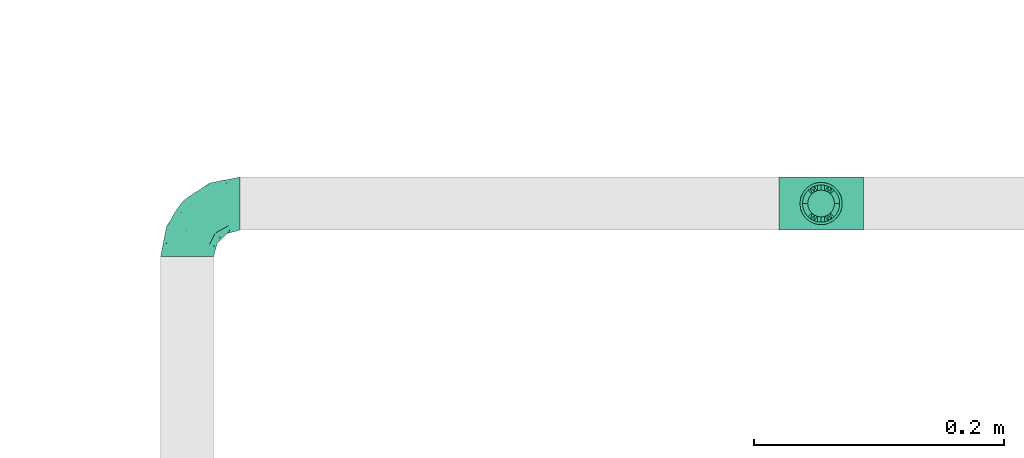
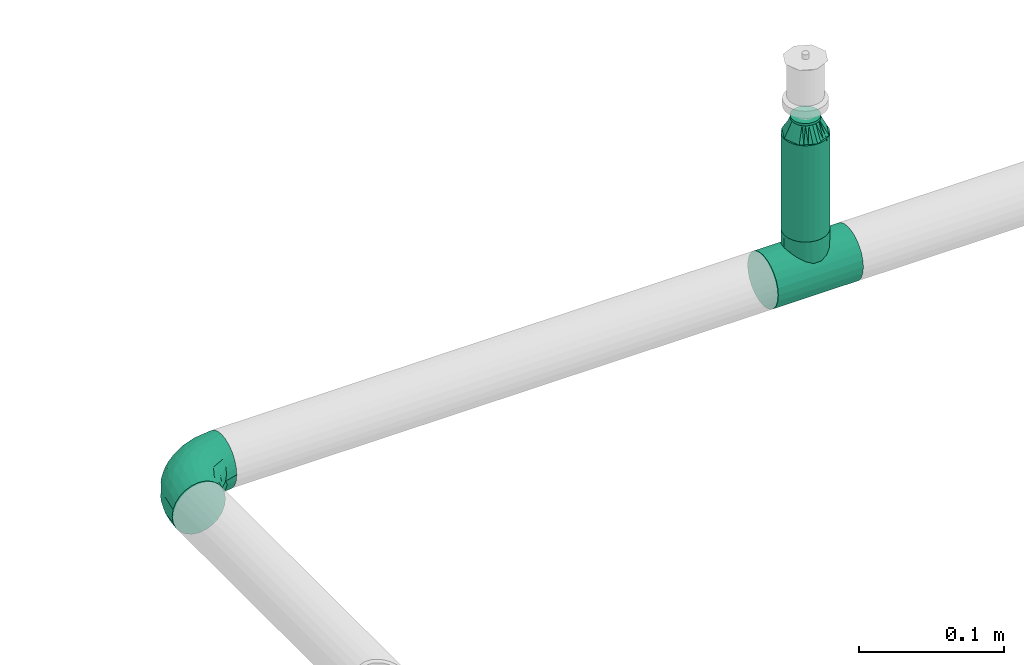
# One storey, part 48 of 94: 3 flow fittings, 1 flow segment.
"""IFC2X3 building model written with IfcOpenShell, lengths in millimetres."""

import ifcopenshell
import ifcopenshell.guid

model = None  # the IFC model being written
_history = None  # IfcOwnerHistory: only IFC2X3 demands one
_inside = {}  # id of a spatial element -> (the spatial element, [elements in it])
_under = {}  # id of a project, library or spatial element -> (it, [spatial elements below it])
_declared = {}  # id of a project -> (the project, [libraries it declares])
_typed = {}  # id of a type object -> (the type object, [elements of that type])
_made_of = {}  # id of a material, layer set ... -> (it, [elements and type objects made of it])


def new_model(schema):
    """Start an empty IFC model of exactly this schema.

    Asked for "IFC4X3", IfcOpenShell would pick the latest addendum, in which some entities
    have other attributes; the version numbers below select the first issue.
    IFC2X3 requires an IfcOwnerHistory on every rooted entity: one is made here for all.
    """
    global model, _history
    if schema == "IFC4X3":
        model = ifcopenshell.file(schema_version=(4, 3, 0, 0))
    else:
        model = ifcopenshell.file(schema=schema)
    _inside.clear()
    _under.clear()
    _declared.clear()
    _typed.clear()
    _made_of.clear()
    _history = None
    if model.schema == "IFC2X3":
        org = make("IfcOrganization", Name="unknown")
        user = make(
            "IfcPersonAndOrganization",
            ThePerson=make("IfcPerson", FamilyName="unknown"),
            TheOrganization=org,
        )
        app = make(
            "IfcApplication",
            ApplicationDeveloper=org,
            Version="unknown",
            ApplicationFullName="unknown",
            ApplicationIdentifier="unknown",
        )
        _history = make(
            "IfcOwnerHistory",
            OwningUser=user,
            OwningApplication=app,
            ChangeAction="ADDED",
            CreationDate=0,
        )
    return model


def make(cls, **values):
    """One entity of the class cls with the attributes given. An attribute that is None is left unset."""
    return model.create_entity(
        cls, **{name: value for name, value in values.items() if value is not None}
    )


def entity(cls, *values):
    """Any entity or typed value of the class cls, its attributes in the order of the schema. None: left unset."""
    e = model.create_entity(cls)
    for i, value in enumerate(values):
        if value is not None:
            e[i] = value
    return e


def rooted(cls, **values):
    """An entity with a GlobalId (a new one), such as an element, a storey or a relation."""
    return make(cls, GlobalId=ifcopenshell.guid.new(), OwnerHistory=_history, **values)


def si_unit(unit_type, name, prefix=None):
    """IfcSIUnit, for example si_unit("LENGTHUNIT", "METRE", prefix="MILLI")."""
    return make("IfcSIUnit", UnitType=unit_type, Prefix=prefix, Name=name)


def converted_unit(unit_type, name, factor, base, dimensions=None, offset=None):
    """IfcConversionBasedUnit, such as the inch: factor (a typed value) times the base unit."""
    return make(
        "IfcConversionBasedUnit"
        if offset is None
        else "IfcConversionBasedUnitWithOffset",
        ConversionOffset=offset,
        Dimensions=None
        if dimensions is None
        else entity("IfcDimensionalExponents", *dimensions),
        UnitType=unit_type,
        Name=name,
        ConversionFactor=make(
            "IfcMeasureWithUnit", ValueComponent=factor, UnitComponent=base
        ),
    )


def derived_unit(unit_type, elements):
    """IfcDerivedUnit: a product of units, each with its exponent."""
    return make(
        "IfcDerivedUnit",
        Elements=[
            make("IfcDerivedUnitElement", Unit=unit, Exponent=power)
            for unit, power in elements
        ],
        UnitType=unit_type,
    )


def assignment(units):
    """IfcUnitAssignment: the units of a project."""
    return None if units is None else make("IfcUnitAssignment", Units=units)


def point(xyz):
    """IfcCartesianPoint."""
    return None if xyz is None else make("IfcCartesianPoint", Coordinates=xyz)


def direction(xyz):
    """IfcDirection."""
    return None if xyz is None else make("IfcDirection", DirectionRatios=xyz)


def frame(location, z_axis=None, x_axis=None):
    """IfcAxis2Placement3D, a coordinate frame: its origin and axes. An axis left out is left unset."""
    return make(
        "IfcAxis2Placement3D",
        Location=point(location),
        Axis=direction(z_axis),
        RefDirection=direction(x_axis),
    )


def frame_2d(location, x_axis=None):
    """IfcAxis2Placement2D, a coordinate frame in the plane: its origin and x axis."""
    return make(
        "IfcAxis2Placement2D", Location=point(location), RefDirection=direction(x_axis)
    )


def origin_with_axes():
    """The frame at (0, 0, 0) with the z axis (0, 0, 1) and the x axis (1, 0, 0) written out."""
    return frame((0.0, 0.0, 0.0), z_axis=(0.0, 0.0, 1.0), x_axis=(1.0, 0.0, 0.0))


def origin_2d_with_axis():
    """The frame at (0, 0) in the plane with the x axis (1, 0) written out."""
    return frame_2d((0.0, 0.0), x_axis=(1.0, 0.0))


def place(relative_to, where):
    """IfcLocalPlacement: puts the frame where relative to a parent placement (None: the world)."""
    return make(
        "IfcLocalPlacement", PlacementRelTo=relative_to, RelativePlacement=where
    )


def context(
    kind, dimensions, precision=None, world=None, true_north=None, identifier=None
):
    """IfcGeometricRepresentationContext, for example the 3D "Model" context."""
    return make(
        "IfcGeometricRepresentationContext",
        ContextIdentifier=identifier,
        ContextType=kind,
        CoordinateSpaceDimension=dimensions,
        Precision=precision,
        WorldCoordinateSystem=world,
        TrueNorth=true_north,
    )


def subcontext(parent, identifier, kind, view, scale=None):
    """IfcGeometricRepresentationSubContext, for example "Body" below "Model"."""
    return make(
        "IfcGeometricRepresentationSubContext",
        ContextIdentifier=identifier,
        ContextType=kind,
        ParentContext=parent,
        TargetScale=scale,
        TargetView=view,
    )


def project(units=None, contexts=None):
    """IfcProject with its units and contexts."""
    return rooted(
        "IfcProject",
        Name="project",
        RepresentationContexts=contexts,
        UnitsInContext=assignment(units),
    )


def spatial(cls, under=None, at=None, **own):
    """A site, building, storey or space (cls), placed at a placement, below another one or the project."""
    s = rooted(cls, ObjectPlacement=at, **own)
    if under is not None:
        _under.setdefault(under.id(), (under, []))[1].append(s)
    return s


def profile(cls, at=None, kind="AREA", **sizes):
    """A parametric profile (cls). Its sizes go by their IFC names, for example OverallWidth=200.0."""
    return make(cls, ProfileType=kind, Position=at, **sizes)


def hollow_circle(**sizes):
    """IfcCircleHollowProfileDef."""
    return profile("IfcCircleHollowProfileDef", **sizes)


def extrude(swept, where, along, depth):
    """IfcExtrudedAreaSolid: the profile swept, set in the frame where, extruded along a direction by depth."""
    return make(
        "IfcExtrudedAreaSolid",
        SweptArea=swept,
        Position=where,
        ExtrudedDirection=direction(along),
        Depth=depth,
    )


def faces_of(points, faces, orient=None, outer=None):
    """IfcFace entities. A face is a list of loops; a loop is a list of indices into points, from 0.

    orient and outer hold one flag for each loop. By default every Orientation is true, the
    first loop of a face is its IfcFaceOuterBound and the others are IfcFaceBound.
    """
    made = []
    for i, loops in enumerate(faces):
        bounds = []
        for j, loop in enumerate(loops):
            is_outer = j == 0 if outer is None else outer[i][j]
            bounds.append(
                make(
                    "IfcFaceOuterBound" if is_outer else "IfcFaceBound",
                    Bound=make("IfcPolyLoop", Polygon=[points[k] for k in loop]),
                    Orientation=True if orient is None else orient[i][j],
                )
            )
        made.append(make("IfcFace", Bounds=bounds))
    return made


def open_shell(faces, orient=None, outer=None):
    """The faces of one IfcOpenShell. surface_model builds it on its shared points."""
    return ("IfcOpenShell", faces, orient, outer)


def surface_model(cls, points, shells):
    """IfcFaceBasedSurfaceModel or IfcShellBasedSurfaceModel (cls): surfaces that need not close."""
    shared = [point(p) for p in points]
    made = [make(c, CfsFaces=faces_of(shared, fs, o, b)) for c, fs, o, b in shells]
    if cls == "IfcFaceBasedSurfaceModel":
        return make(cls, FbsmFaces=made)
    return make(cls, SbsmBoundary=made)


def shape(context_of_items, identifier, shape_type, items):
    """IfcShapeRepresentation: the items that make up one representation, for example the "Body"."""
    return make(
        "IfcShapeRepresentation",
        ContextOfItems=context_of_items,
        RepresentationIdentifier=identifier,
        RepresentationType=shape_type,
        Items=items,
    )


def source(mapping_origin, context_of_items, identifier, shape_type, items):
    """IfcRepresentationMap: a shape defined once, which mapped items show again and again."""
    return make(
        "IfcRepresentationMap",
        MappingOrigin=mapping_origin,
        MappedRepresentation=shape(context_of_items, identifier, shape_type, items),
    )


def transform(
    local_origin,
    x_axis=None,
    y_axis=None,
    z_axis=None,
    scale=None,
    scale2=None,
    scale3=None,
    uniform=True,
):
    """IfcCartesianTransformationOperator3D, or its non-uniform kind. x_axis, y_axis, z_axis: its Axis1, 2, 3."""
    if uniform:
        return make(
            "IfcCartesianTransformationOperator3D",
            Axis1=direction(x_axis),
            Axis2=direction(y_axis),
            LocalOrigin=point(local_origin),
            Scale=scale,
            Axis3=direction(z_axis),
        )
    return make(
        "IfcCartesianTransformationOperator3DnonUniform",
        Axis1=direction(x_axis),
        Axis2=direction(y_axis),
        LocalOrigin=point(local_origin),
        Scale=scale,
        Axis3=direction(z_axis),
        Scale2=scale2,
        Scale3=scale3,
    )


def mapped(mapping_source, mapping_target):
    """IfcMappedItem: shows the shape of a source again, moved by a transform."""
    return make(
        "IfcMappedItem", MappingSource=mapping_source, MappingTarget=mapping_target
    )


def made_of(thing, what):
    """Note that an element or type object is made of a material, layer set ...; save() writes the relation."""
    if what is not None:
        _made_of.setdefault(what.id(), (what, []))[1].append(thing)
    return thing


def type_object(cls, material=None, **own):
    """A type object (cls), such as IfcWallType, which elements share."""
    return made_of(rooted(cls, **own), material)


def element(
    cls,
    number,
    at=None,
    inside=None,
    cuts=None,
    type_object=None,
    material=None,
    context=None,
    identifier="Body",
    shape_type=None,
    held_by="IfcProductDefinitionShape",
    body=None,
    shapes=None,
    **own,
):
    """One element of the class cls, such as IfcWall. Its Tag is "e" and its number.

    at: its placement. inside: the storey or other place that contains it. cuts: it is an
    opening in that element (IfcRelVoidsElement). A single representation is given by context,
    identifier, shape_type and body (its items); several are given by shapes. held_by: the class
    of the entity that holds the representations. save() writes the other relations.
    """
    e = rooted(cls, Tag="e%d" % number, ObjectPlacement=at, **own)
    if body is not None:
        shapes = [shape(context, identifier, shape_type, body)]
    if shapes is not None:
        e.Representation = make(held_by, Representations=shapes)
    if inside is not None:
        _inside.setdefault(inside.id(), (inside, []))[1].append(e)
    if cuts is not None:
        rooted(
            "IfcRelVoidsElement", RelatingBuildingElement=cuts, RelatedOpeningElement=e
        )
    if type_object is not None:
        _typed.setdefault(type_object.id(), (type_object, []))[1].append(e)
    return made_of(e, material)


def aggregate(whole, parts):
    """IfcRelAggregates: a whole, such as a stair, and the parts it consists of."""
    return rooted("IfcRelAggregates", RelatingObject=whole, RelatedObjects=parts)


def save(model, path):
    """Write the relations noted so far, then the file.

    IfcRelAggregates (storeys below a building ...), IfcRelContainedInSpatialStructure (elements
    in a storey), IfcRelDefinesByType, IfcRelAssociatesMaterial and IfcRelDeclares: one each for
    every whole, place, type object, material and project.
    """
    for whole, parts in _under.values():
        aggregate(whole, parts)
    for where, things in _inside.values():
        rooted(
            "IfcRelContainedInSpatialStructure",
            RelatedElements=things,
            RelatingStructure=where,
        )
    for kind, things in _typed.values():
        rooted("IfcRelDefinesByType", RelatedObjects=things, RelatingType=kind)
    for what, things in _made_of.values():
        rooted("IfcRelAssociatesMaterial", RelatedObjects=things, RelatingMaterial=what)
    for by, libraries in _declared.values():
        rooted("IfcRelDeclares", RelatingContext=by, RelatedDefinitions=libraries)
    model.write(path)


model = new_model("IFC2X3")

# Units and contexts
model_context = context("Model", 3, precision=0.01, world=frame((0.0, 4.29681676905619e-09, 0.0)), true_north=direction((4.01073788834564e-13, 1.0)))
plan_context = context("Plan", 3, precision=0.01, world=frame((0.0, 4.29681676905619e-09, 0.0)), true_north=direction((4.01073788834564e-13, 1.0)))
body_context = subcontext(model_context, "Body", "Model", "MODEL_VIEW")
ifc_project = project(units=[converted_unit("PLANEANGLEUNIT", "DEGREE", entity("IfcPositiveLengthMeasure", 0.0174532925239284), si_unit("PLANEANGLEUNIT", "RADIAN"), dimensions=[0, 0, 0, 0, 0, 0, 0]), si_unit("AREAUNIT", "SQUARE_METRE"), si_unit("LENGTHUNIT", "METRE", prefix="MILLI"), si_unit("MASSUNIT", "GRAM", prefix="KILO"), si_unit("POWERUNIT", "WATT"), si_unit("PRESSUREUNIT", "PASCAL"), si_unit("FORCEUNIT", "NEWTON", prefix="KILO"), si_unit("ELECTRICCURRENTUNIT", "AMPERE"), si_unit("THERMODYNAMICTEMPERATUREUNIT", "DEGREE_CELSIUS"), si_unit("TIMEUNIT", "SECOND"), si_unit("VOLUMEUNIT", "CUBIC_METRE"), derived_unit("LINEARVELOCITYUNIT", [(si_unit("LENGTHUNIT", "METRE"), 1), (si_unit("TIMEUNIT", "SECOND"), -1)]), derived_unit("VOLUMETRICFLOWRATEUNIT", [(si_unit("VOLUMEUNIT", "CUBIC_METRE"), 1), (si_unit("TIMEUNIT", "SECOND"), -1)]), derived_unit("THERMALTRANSMITTANCEUNIT", [(si_unit("POWERUNIT", "WATT"), 1), (si_unit("THERMODYNAMICTEMPERATUREUNIT", "KELVIN"), -1), (si_unit("AREAUNIT", "SQUARE_METRE"), -1)])], contexts=[model_context, plan_context])

# Site, building, storey
site_placement = place(None, frame((0.0, -4.29681676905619e-09, 0.0), z_axis=(0.0, 0.0, 1.0), x_axis=(1.0, 0.0, 0.0)))
site = spatial("IfcSite", under=ifc_project, at=site_placement, CompositionType="ELEMENT")
building_placement = place(site_placement, frame((0.0, 4.29681676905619e-09, 0.0), z_axis=(0.0, 0.0, 1.0), x_axis=(1.0, 0.0, 0.0)))
building = spatial("IfcBuilding", under=site, at=building_placement, Name="mc-building", CompositionType="ELEMENT")
storey_placement = place(building_placement, frame((0.0, 0.0, 200300.0), z_axis=(0.0, 0.0, 1.0), x_axis=(1.0, 0.0, 0.0)))
storey = spatial("IfcBuildingStorey", under=building, at=storey_placement, Name="Nivå C", CompositionType="ELEMENT", Elevation=200300.0)

# Flow fittings
pipe_fitting_type_1 = type_object("IfcPipeFittingType", Name="magi_pipe_fe_elbow_short_001", PredefinedType="BEND")
shared_shape_1 = source(origin_with_axes(), body_context, "Body", "SurfaceModel", [
    surface_model("IfcShellBasedSurfaceModel", [(-42.4, 10.6, -18.35974), (-42.4, 5.48696, -20.47763), (-42.4, 0.0, -21.2), (-42.4, 14.99066, -14.99066), (-42.4, 20.47763, -5.48696), (-42.4, 18.35974, -10.6), (-42.4, -14.99066, 14.99066), (-42.4, -21.2, 0.0), (-42.4, -10.6, -18.35974), (-42.4, -14.99066, -14.99066), (-42.4, -5.48696, -20.47763), (-42.4, -18.35974, -10.6), (-42.4, -20.47763, -5.48696), (-42.4, 10.6, 18.35974), (-42.4, 20.47763, 5.48696), (-42.4, 18.35974, 10.6), (-42.4, 14.99066, 14.99066), (-42.4, 5.48696, 20.47763), (-42.4, 0.0, 21.2), (-42.4, -20.47763, 5.48696), (-42.4, -18.35974, 10.6), (-42.4, -10.6, 18.35974), (-42.4, -5.48696, 20.47763), (-42.4, 21.2, 0.0), (0.0, 42.4, -21.2), (-5.48696, 42.4, -20.47763), (-10.6, 42.4, -18.35974), (-14.99066, 42.4, -14.99066), (-18.35974, 42.4, -10.6), (-20.47763, 42.4, -5.48696), (21.2, 42.4, 0.0), (5.48696, 42.4, -20.47763), (14.99066, 42.4, -14.99066), (10.6, 42.4, -18.35974), (18.35974, 42.4, -10.6), (20.47763, 42.4, -5.48696), (14.99066, 42.4, 14.99066), (-20.47763, 42.4, 5.48696), (-10.6, 42.4, 18.35974), (-14.99066, 42.4, 14.99066), (-18.35974, 42.4, 10.6), (-5.48696, 42.4, 20.47763), (0.0, 42.4, 21.2), (18.35974, 42.4, 10.6), (20.47763, 42.4, 5.48696), (5.48696, 42.4, 20.47763), (10.6, 42.4, 18.35974), (-21.2, 42.4, 0.0), (-31.10239, -16.47009, 11.90111), (-27.83957, -12.231, 15.79732), (-30.23067, -18.77937, 0.0), (-18.74048, -13.50096, 10.69998), (-28.17586, -18.50359, 6.61185), (18.50359, 28.17586, 6.61185), (14.95929, 16.60735, 5.43468), (16.35874, 18.06133, 0.0), (-20.72313, 33.83635, 9.21426), (-17.70981, 33.00599, 13.92769), (-31.16033, -8.01664, 19.07348), (-32.38682, -2.80842, 20.83743), (-29.68688, 3.24967, 21.16387), (-7.74467, -9.46536, 0.0), (-16.60735, -14.95929, 5.43468), (-18.06133, -16.35874, 0.0), (-16.37932, -5.14532, 17.61254), (-21.10659, -0.19025, 20.54817), (-1.82445, -3.58377, 9.55223), (-0.35533, 0.43745, 12.66367), (-7.20655, -5.07682, 13.06146), (-33.14056, 17.6728, 13.91288), (-7.36799, 20.84806, 21.16196), (-15.70315, 15.70315, 20.68489), (-12.62356, 9.26422, 21.0908), (-36.67879, 12.83836, 17.27427), (-7.91358, 36.5686, 19.85759), (-2.90555, 31.71221, 21.14793), (-33.84689, 20.71971, 9.21285), (-33.51649, 22.58113, 4.66115), (-26.3226, 26.3226, 7.92474), (-32.67995, 8.31454, 20.02643), (-5.53379, 14.19921, 20.81623), (-10.53385, 3.88918, 19.79653), (-2.16577, 11.45378, 19.48254), (-3.78693, 3.78693, 17.3328), (12.231, 27.83957, 15.79732), (13.50096, 18.74047, 10.69998), (16.47009, 31.10239, 11.90111), (-22.53806, 14.38475, 19.60876), (-23.29615, 9.08095, 20.82061), (2.80842, 32.38682, 20.83743), (8.01664, 31.16033, 19.07348), (5.14532, 16.37932, 17.61254), (18.77937, 30.23067, 0.0), (-20.80278, 5.19491, 21.19095), (-19.62579, 22.38752, 17.42006), (-29.19336, 14.39093, 17.85259), (-22.31569, 34.20044, 4.54807), (-26.56962, 27.80621, 3.73106), (9.67657, 17.17133, 14.49993), (-24.04026, 31.8, 0.0), (-9.16861, 28.72652, 20.19004), (-12.09761, 21.9456, 20.37969), (-15.36991, 27.40112, 17.818), (-16.88976, 20.52477, 19.2896), (-12.95169, 35.54896, 17.36222), (-17.17133, -9.67657, 14.49993), (-21.98655, 28.10245, 11.99898), (-22.34699, 23.67592, 15.01692), (-27.22822, 22.77969, 11.82161), (0.19025, 21.10658, 20.54817), (4.8276, 7.36347, 13.42842), (-10.06209, -9.46364, 9.95114), (1.25876, -2.7536, 5.73797), (6.43781, 3.77591, 7.40371), (6.57528, 2.20066, 3.17705), (10.91934, 8.84313, 5.00748), (10.64415, 10.99764, 8.89767), (-31.8, 24.04026, 0.0), (-5.71381, -8.43063, 6.15529), (2.57199, -2.57199, 0.0), (9.46536, 7.74467, 0.0), (-17.17133, -9.67657, -14.49993), (-27.83957, -12.231, -15.79732), (-16.37932, -5.14532, -17.61254), (-18.74048, -13.50096, -10.69998), (-33.00599, 17.70981, -13.92769), (-35.54896, 12.95169, -17.36222), (-34.20044, 22.31569, -4.54807), (-28.17586, -18.50359, -6.61185), (-26.3226, 26.3226, -7.92474), (-33.83635, 20.72313, -9.21426), (-16.60735, -14.95929, -5.43468), (-20.52477, 16.88976, -19.2896), (-21.9456, 12.0976, -20.37969), (-27.40112, 15.36991, -17.818), (-12.83836, 36.67879, -17.27427), (-17.6728, 33.14056, -13.91288), (8.01664, 31.16033, -19.07348), (5.14532, 16.37932, -17.61254), (0.19025, 21.10658, -20.54817), (-36.5686, 7.91358, -19.85759), (-31.10239, -16.47009, -11.90111), (-31.16033, -8.01664, -19.07348), (-14.38475, 22.53806, -19.60876), (-8.31454, 32.67995, -20.02643), (-9.08095, 23.29615, -20.82061), (-32.38682, -2.80842, -20.83743), (-20.84806, 7.36799, -21.16196), (-15.70315, 15.70314, -20.68489), (-9.26422, 12.62356, -21.0908), (-31.71221, 2.90555, -21.14793), (-22.58113, 33.51649, -4.66115), (-20.71971, 33.84689, -9.21285), (-28.72652, 9.16861, -20.19004), (-27.80621, 26.56962, -3.73106), (-5.19491, 20.80278, -21.19095), (-22.38752, 19.62579, -17.42006), (-14.39093, 29.19336, -17.85259), (2.80842, 32.38682, -20.83743), (-3.24967, 29.68688, -21.16387), (16.47009, 31.10239, -11.90111), (12.231, 27.83957, -15.79732), (6.57528, 2.20067, -3.17705), (10.91934, 8.84313, -5.00749), (-14.19921, 5.53379, -20.81623), (-3.88918, 10.53385, -19.79653), (-11.45378, 2.16577, -19.48254), (1.25876, -2.7536, -5.73797), (-5.71381, -8.43063, -6.15529), (-1.82445, -3.58377, -9.55223), (13.50096, 18.74048, -10.69998), (18.50359, 28.17586, -6.61185), (14.95929, 16.60735, -5.43468), (-28.10245, 21.98655, -11.99898), (9.67657, 17.17133, -14.49993), (10.64415, 10.99764, -8.89767), (4.8276, 7.36347, -13.42842), (-23.67592, 22.34699, -15.01692), (-22.77969, 27.22822, -11.82161), (-21.10658, -0.19025, -20.54817), (-3.78693, 3.78693, -17.3328), (-7.20655, -5.07682, -13.06146), (-10.06209, -9.46364, -9.95113), (-0.35533, 0.43745, -12.66367), (6.43781, 3.77591, -7.40371)], [open_shell([[[0, 1, 2]], [[3, 0, 2]], [[4, 5, 3]], [[2, 4, 3]], [[6, 2, 7]], [[8, 9, 10]], [[11, 10, 9]], [[12, 7, 11]], [[2, 10, 11]], [[11, 7, 2]], [[6, 4, 2]], [[13, 14, 4]], [[15, 14, 16]], [[4, 6, 13]], [[16, 14, 13]], [[17, 13, 18]], [[19, 20, 7]], [[7, 20, 6]], [[21, 22, 6]], [[18, 6, 22]], [[6, 18, 13]], [[23, 4, 14]], [[24, 25, 26]], [[24, 26, 27]], [[27, 28, 29]], [[27, 29, 24]], [[24, 29, 30]], [[31, 32, 33]], [[31, 24, 32]], [[34, 30, 35]], [[32, 24, 34]], [[24, 30, 34]], [[29, 36, 30]], [[29, 37, 38]], [[39, 37, 40]], [[36, 29, 38]], [[38, 37, 39]], [[41, 42, 38]], [[30, 43, 44]], [[36, 43, 30]], [[36, 45, 46]], [[45, 36, 42]], [[38, 42, 36]], [[37, 29, 47]], [[6, 48, 49]], [[19, 7, 50]], [[51, 48, 52]], [[53, 54, 55]], [[48, 6, 20]], [[19, 52, 20]], [[40, 56, 57]], [[49, 21, 6]], [[49, 58, 21]], [[18, 59, 60]], [[61, 62, 63]], [[58, 64, 65]], [[66, 67, 68]], [[15, 16, 69]], [[70, 71, 72]], [[13, 73, 16]], [[22, 59, 18]], [[41, 74, 75]], [[18, 60, 17]], [[15, 69, 76]], [[16, 73, 69]], [[23, 14, 77]], [[14, 15, 76]], [[77, 76, 78]], [[17, 79, 13]], [[80, 81, 82]], [[68, 83, 64]], [[84, 36, 46]], [[85, 86, 84]], [[87, 79, 88]], [[21, 58, 22]], [[42, 89, 45]], [[53, 44, 43]], [[42, 41, 75]], [[84, 90, 91]], [[43, 86, 53]], [[92, 44, 53]], [[86, 43, 36]], [[90, 46, 45]], [[53, 55, 92]], [[88, 93, 72]], [[54, 53, 85]], [[87, 94, 95]], [[78, 96, 97]], [[98, 84, 91]], [[99, 96, 47]], [[79, 17, 60]], [[96, 78, 56]], [[62, 52, 63]], [[57, 39, 40]], [[100, 70, 75]], [[101, 102, 103]], [[19, 50, 52]], [[104, 38, 39]], [[74, 41, 38]], [[57, 102, 104]], [[105, 64, 49]], [[90, 84, 46]], [[40, 37, 56]], [[56, 106, 57]], [[102, 57, 107]], [[95, 107, 69]], [[76, 108, 78]], [[100, 101, 70]], [[89, 75, 109]], [[64, 58, 49]], [[63, 52, 50]], [[59, 58, 65]], [[105, 49, 51]], [[64, 83, 81]], [[89, 90, 45]], [[30, 44, 92]], [[109, 82, 91]], [[109, 91, 90]], [[91, 83, 110]], [[111, 68, 105]], [[66, 68, 111]], [[62, 51, 52]], [[66, 112, 113]], [[114, 115, 113]], [[98, 85, 84]], [[52, 48, 20]], [[49, 48, 51]], [[84, 86, 36]], [[53, 86, 85]], [[88, 79, 60]], [[73, 79, 95]], [[96, 56, 37]], [[78, 108, 106]], [[87, 103, 94]], [[100, 74, 104]], [[108, 69, 107]], [[78, 97, 77]], [[88, 72, 71]], [[109, 75, 70]], [[81, 72, 65]], [[70, 72, 80]], [[75, 89, 42]], [[90, 89, 109]], [[58, 59, 22]], [[60, 59, 65]], [[67, 83, 68]], [[110, 113, 116]], [[88, 60, 93]], [[87, 88, 71]], [[103, 87, 71]], [[79, 87, 95]], [[101, 103, 71]], [[94, 103, 102]], [[47, 96, 37]], [[96, 99, 97]], [[99, 117, 97]], [[97, 117, 77]], [[23, 77, 117]], [[14, 76, 77]], [[60, 65, 93]], [[65, 72, 93]], [[70, 101, 71]], [[102, 101, 100]], [[69, 108, 76]], [[106, 108, 107]], [[57, 106, 107]], [[78, 106, 56]], [[57, 104, 39]], [[100, 104, 102]], [[102, 107, 94]], [[95, 94, 107]], [[64, 81, 65]], [[82, 81, 83]], [[91, 82, 83]], [[80, 82, 109]], [[70, 80, 109]], [[81, 80, 72]], [[79, 73, 13]], [[69, 73, 95]], [[104, 74, 38]], [[75, 74, 100]], [[62, 61, 118]], [[111, 62, 118]], [[113, 115, 116]], [[119, 118, 61]], [[111, 105, 51]], [[113, 112, 114]], [[120, 55, 54]], [[68, 64, 105]], [[91, 110, 98]], [[116, 98, 110]], [[62, 111, 51]], [[66, 111, 118]], [[112, 66, 118]], [[67, 113, 110]], [[118, 119, 112]], [[114, 112, 119]], [[119, 120, 114]], [[115, 120, 54]], [[120, 115, 114]], [[116, 54, 85]], [[54, 116, 115]], [[116, 85, 98]], [[113, 67, 66]], [[83, 67, 110]], [[121, 122, 123]], [[122, 121, 124]], [[5, 125, 3]], [[3, 126, 0]], [[117, 127, 23]], [[50, 12, 128]], [[127, 129, 130]], [[128, 131, 63]], [[132, 133, 134]], [[27, 135, 136]], [[137, 138, 139]], [[0, 140, 1]], [[128, 11, 141]], [[142, 8, 10]], [[128, 63, 50]], [[5, 4, 130]], [[11, 9, 141]], [[143, 144, 145]], [[146, 10, 2]], [[147, 148, 149]], [[11, 128, 12]], [[124, 141, 122]], [[150, 2, 1]], [[151, 152, 129]], [[125, 134, 126]], [[153, 147, 150]], [[127, 154, 129]], [[145, 155, 149]], [[47, 29, 151]], [[143, 156, 157]], [[152, 29, 28]], [[24, 158, 159]], [[122, 9, 8]], [[27, 26, 135]], [[144, 26, 25]], [[32, 160, 161]], [[24, 31, 158]], [[120, 162, 163]], [[130, 125, 5]], [[27, 136, 28]], [[1, 140, 150]], [[33, 161, 137]], [[142, 122, 8]], [[24, 159, 25]], [[164, 165, 166]], [[167, 168, 169]], [[34, 160, 32]], [[161, 33, 32]], [[170, 160, 171]], [[131, 128, 124]], [[30, 92, 35]], [[35, 92, 171]], [[172, 171, 55]], [[35, 171, 34]], [[144, 25, 159]], [[130, 173, 125]], [[174, 175, 176]], [[136, 152, 28]], [[33, 137, 31]], [[122, 142, 123]], [[134, 125, 177]], [[157, 177, 136]], [[152, 178, 129]], [[153, 133, 147]], [[146, 150, 179]], [[146, 142, 10]], [[7, 12, 50]], [[179, 166, 123]], [[179, 123, 142]], [[123, 180, 181]], [[138, 137, 161]], [[55, 171, 92]], [[158, 137, 139]], [[174, 161, 170]], [[138, 180, 165]], [[180, 138, 176]], [[124, 121, 182]], [[176, 183, 180]], [[61, 131, 168]], [[169, 168, 182]], [[172, 170, 171]], [[122, 141, 9]], [[128, 141, 124]], [[171, 160, 34]], [[161, 160, 170]], [[145, 144, 159]], [[135, 144, 157]], [[127, 130, 4]], [[129, 178, 173]], [[143, 132, 156]], [[153, 140, 126]], [[178, 136, 177]], [[129, 154, 151]], [[145, 149, 148]], [[179, 150, 147]], [[165, 149, 139]], [[147, 149, 164]], [[150, 146, 2]], [[142, 146, 179]], [[137, 158, 31]], [[159, 158, 139]], [[174, 138, 161]], [[184, 169, 183]], [[145, 159, 155]], [[143, 145, 148]], [[132, 143, 148]], [[144, 143, 157]], [[133, 132, 148]], [[156, 132, 134]], [[23, 127, 4]], [[127, 117, 154]], [[117, 99, 154]], [[154, 99, 151]], [[47, 151, 99]], [[29, 152, 151]], [[159, 139, 155]], [[139, 149, 155]], [[147, 133, 148]], [[134, 133, 153]], [[136, 178, 152]], [[173, 178, 177]], [[125, 173, 177]], [[129, 173, 130]], [[125, 126, 3]], [[153, 126, 134]], [[134, 177, 156]], [[157, 156, 177]], [[138, 165, 139]], [[166, 165, 180]], [[123, 166, 180]], [[164, 166, 179]], [[147, 164, 179]], [[165, 164, 149]], [[144, 135, 26]], [[136, 135, 157]], [[126, 140, 0]], [[150, 140, 153]], [[182, 131, 124]], [[168, 119, 61]], [[119, 167, 162]], [[63, 131, 61]], [[172, 163, 175]], [[172, 55, 120]], [[123, 181, 121]], [[182, 121, 181]], [[175, 174, 170]], [[176, 138, 174]], [[169, 182, 181]], [[131, 182, 168]], [[183, 169, 181]], [[167, 169, 184]], [[162, 167, 184]], [[119, 168, 167]], [[163, 162, 184]], [[120, 119, 162]], [[175, 163, 184]], [[120, 163, 172]], [[176, 175, 184]], [[172, 175, 170]], [[180, 183, 181]], [[184, 183, 176]]])]),
])
flow_fitting_1_placement = place(storey_placement, frame((520991.06879, 413500.1625, 2850.0), z_axis=(0.0, 0.0, 1.0), x_axis=(-1.0, 0.0, 0.0)))
element("IfcFlowFitting", 1, at=flow_fitting_1_placement, inside=storey, type_object=pipe_fitting_type_1, Name="magi_pipe_fe_elbow_short_001", context=body_context, shape_type="MappedRepresentation", body=[
    mapped(shared_shape_1, transform((0.0, 0.0, 0.0), scale=1.0)),
])
pipe_fitting_type_2 = type_object("IfcPipeFittingType", Name="magi_pipe_fe_tee_centric_90_NOR", PredefinedType="JUNCTION")
shared_shape_2 = source(origin_with_axes(), body_context, "Body", "SurfaceModel", [
    surface_model("IfcShellBasedSurfaceModel", [(-33.8, 0.0, -21.2), (-33.8, -5.48696, -20.47763), (-33.8, 5.48696, -20.47763), (-33.8, 10.6, -18.35974), (-33.8, 14.99066, -14.99066), (-33.8, -20.47763, 5.48696), (-33.8, 18.35974, -10.6), (-33.8, 10.6, 18.35974), (-33.8, -14.99066, -14.99066), (-33.8, -18.35974, -10.6), (-33.8, -10.6, -18.35974), (-33.8, -20.47763, -5.48696), (-33.8, -21.2, 0.0), (-33.8, 18.35974, 10.6), (-33.8, 20.47763, -5.48696), (-33.8, 20.47763, 5.48696), (-33.8, 21.2, 0.0), (-33.8, 14.99066, 14.99066), (-33.8, 5.48696, 20.47763), (-33.8, 0.0, 21.2), (-33.8, -18.35974, 10.6), (-33.8, -14.99066, 14.99066), (-33.8, -10.6, 18.35974), (-33.8, -5.48696, 20.47763), (33.8, 5.48696, -20.47763), (33.8, -5.48696, -20.47763), (33.8, 0.0, -21.2), (33.8, 14.99066, -14.99066), (33.8, 10.6, -18.35974), (33.8, 18.35974, -10.6), (33.8, 20.47763, -5.48696), (33.8, -21.2, 0.0), (33.8, -10.6, -18.35974), (33.8, -18.35974, -10.6), (33.8, -14.99066, -14.99066), (33.8, -20.47763, -5.48696), (33.8, -20.47763, 5.48696), (33.8, 21.2, 0.0), (33.8, 20.47763, 5.48696), (33.8, 18.35974, 10.6), (33.8, 10.6, 18.35974), (33.8, 14.99066, 14.99066), (33.8, 0.0, 21.2), (33.8, 5.48696, 20.47763), (33.8, -14.99066, 14.99066), (33.8, -18.35974, 10.6), (33.8, -10.6, 18.35974), (33.8, -5.48696, 20.47763), (16.9, -21.2, 0.0), (15.78624, -20.32327, 6.03364), (12.81343, -18.11115, 11.01935), (8.52479, -15.37862, 14.59239), (3.07939, -13.16482, 16.61708), (-16.9, -21.2, 0.0), (-15.78686, -20.32375, 6.032), (-8.52604, -15.37932, 14.59166), (-3.0848, -13.16609, 16.61608), (-12.81602, -18.11299, 11.01634), (3.07939, -13.16482, -16.61708), (12.81343, -18.11115, -11.01935), (8.52479, -15.37862, -14.59239), (15.78624, -20.32327, -6.03364), (-3.0848, -13.16609, -16.61608), (-8.52604, -15.37932, -14.59166), (-12.81602, -18.11299, -11.01634), (-15.78686, -20.32375, -6.032), (4.37404, -31.8, -16.32415), (-16.9, -31.8, 0.0), (0.0, -31.8, -16.9), (14.63583, -31.8, -8.45), (8.45, -31.8, -14.63583), (16.32415, -31.8, -4.37404), (11.9501, -31.8, -11.9501), (-11.9501, -31.8, -11.9501), (-8.45, -31.8, -14.63583), (-4.37404, -31.8, -16.32415), (-14.63583, -31.8, -8.45), (-16.32415, -31.8, -4.37404), (16.9, -31.8, 0.0), (8.45, -31.8, 14.63583), (16.32415, -31.8, 4.37404), (14.63583, -31.8, 8.45), (-8.45, -31.8, 14.63583), (11.9501, -31.8, 11.9501), (4.37404, -31.8, 16.32415), (-16.32415, -31.8, 4.37404), (-11.9501, -31.8, 11.9501), (-14.63583, -31.8, 8.45), (0.0, -31.8, 16.9), (-4.37404, -31.8, 16.32415), (-16.34343, -20.76188, 3.016), (16.34312, -20.76163, 3.01682), (-0.00271, -13.16546, 16.61658), (16.34312, -20.76163, -3.01682), (-0.00271, -13.16546, -16.61658), (-16.34343, -20.76188, -3.016)], [open_shell([[[0, 1, 2]], [[3, 2, 4]], [[5, 2, 1]], [[4, 2, 6]], [[6, 2, 7]], [[8, 9, 10]], [[1, 10, 9]], [[9, 11, 1]], [[12, 1, 11]], [[5, 1, 12]], [[13, 14, 6]], [[13, 15, 16]], [[6, 7, 13]], [[5, 7, 2]], [[17, 13, 7]], [[18, 7, 19]], [[20, 21, 5]], [[22, 5, 21]], [[23, 19, 22]], [[7, 5, 22]], [[22, 19, 7]], [[16, 14, 13]], [[24, 25, 26]], [[27, 24, 28]], [[29, 30, 24]], [[29, 24, 27]], [[31, 24, 30]], [[32, 33, 34]], [[33, 32, 25]], [[33, 31, 35]], [[31, 33, 25]], [[25, 24, 31]], [[30, 36, 31]], [[37, 38, 39]], [[37, 39, 40]], [[37, 40, 36]], [[40, 39, 41]], [[42, 40, 43]], [[36, 44, 45]], [[44, 36, 46]], [[46, 42, 47]], [[46, 36, 40]], [[40, 42, 46]], [[37, 36, 30]], [[31, 36, 48]], [[49, 48, 36]], [[36, 45, 49]], [[45, 44, 50]], [[51, 50, 44]], [[52, 51, 44]], [[44, 46, 52]], [[45, 50, 49]], [[53, 54, 5]], [[5, 12, 53]], [[54, 20, 5]], [[55, 56, 21]], [[20, 57, 21]], [[57, 20, 54]], [[21, 57, 55]], [[56, 22, 21]], [[52, 22, 56]], [[19, 47, 42]], [[23, 46, 47]], [[18, 42, 43]], [[39, 38, 15]], [[17, 40, 41]], [[13, 41, 39]], [[43, 40, 7]], [[16, 38, 37]], [[22, 46, 23]], [[23, 47, 19]], [[18, 19, 42]], [[43, 7, 18]], [[7, 40, 17]], [[13, 17, 41]], [[15, 13, 39]], [[38, 16, 15]], [[46, 22, 52]], [[6, 30, 29]], [[14, 37, 30]], [[4, 29, 27]], [[26, 25, 1]], [[2, 28, 24]], [[0, 24, 26]], [[27, 28, 3]], [[10, 25, 32]], [[16, 37, 14]], [[14, 30, 6]], [[4, 6, 29]], [[27, 3, 4]], [[3, 28, 2]], [[0, 2, 24]], [[1, 0, 26]], [[25, 10, 1]], [[32, 58, 10]], [[34, 59, 60]], [[59, 34, 33]], [[60, 58, 34]], [[34, 58, 32]], [[35, 31, 48]], [[35, 61, 33]], [[61, 35, 48]], [[33, 61, 59]], [[62, 63, 8]], [[8, 64, 9]], [[64, 8, 63]], [[62, 8, 10]], [[65, 53, 11]], [[65, 11, 9]], [[11, 53, 12]], [[65, 9, 64]], [[58, 62, 10]], [[66, 67, 68]], [[69, 66, 70]], [[69, 71, 66]], [[69, 70, 72]], [[67, 66, 71]], [[68, 73, 74]], [[74, 75, 68]], [[76, 67, 77]], [[73, 68, 76]], [[67, 76, 68]], [[71, 78, 67]], [[79, 78, 80]], [[79, 80, 81]], [[82, 67, 79]], [[79, 81, 83]], [[82, 79, 84]], [[85, 86, 87]], [[86, 85, 82]], [[82, 88, 89]], [[85, 67, 82]], [[84, 88, 82]], [[79, 67, 78]], [[85, 90, 67]], [[57, 87, 86]], [[85, 87, 54]], [[86, 82, 55]], [[85, 54, 90]], [[90, 53, 67]], [[54, 87, 57]], [[91, 49, 80]], [[55, 89, 56]], [[55, 57, 86]], [[88, 52, 92]], [[55, 82, 89]], [[52, 88, 84]], [[79, 51, 84]], [[50, 83, 81]], [[83, 51, 79]], [[81, 80, 49]], [[83, 50, 51]], [[51, 52, 84]], [[78, 91, 80]], [[49, 50, 81]], [[91, 78, 48]], [[88, 56, 89]], [[92, 56, 88]], [[71, 93, 78]], [[59, 69, 72]], [[71, 69, 61]], [[72, 70, 60]], [[93, 48, 78]], [[61, 69, 59]], [[60, 66, 58]], [[60, 59, 72]], [[68, 62, 94]], [[60, 70, 66]], [[95, 67, 53]], [[95, 65, 77]], [[71, 61, 93]], [[75, 62, 68]], [[65, 76, 77]], [[73, 76, 64]], [[68, 58, 66]], [[75, 63, 62]], [[63, 75, 74]], [[74, 73, 63]], [[63, 73, 64]], [[64, 76, 65]], [[67, 95, 77]], [[94, 58, 68]]])]),
])
flow_fitting_2_placement = place(storey_placement, frame((521497.26879, 413500.1625, 2850.0), z_axis=(0.0, -1.0, 0.0), x_axis=(-1.0, 0.0, 0.0)))
element("IfcFlowFitting", 2, at=flow_fitting_2_placement, inside=storey, type_object=pipe_fitting_type_2, Name="magi_pipe_fe_tee_centric_90_NOR", context=body_context, shape_type="MappedRepresentation", body=[
    mapped(shared_shape_2, transform((0.0, 0.0, 0.0), scale=1.0)),
])
pipe_fitting_type_3 = type_object("IfcPipeFittingType", Name="magi_pipe_fe_reducer_centric_short_NOR", PredefinedType="TRANSITION")
shared_shape_3 = source(origin_with_axes(), body_context, "Body", "SurfaceModel", [
    surface_model("IfcShellBasedSurfaceModel", [(-2.0, -7.56604, -7.56604), (-2.0, -10.33541, -2.76936), (-2.0, -5.35, -9.26647), (-2.0, 5.35, -9.26647), (-2.0, 10.33541, -2.76936), (-2.0, 7.56604, -7.56604), (12.4, 11.9501, 11.9501), (12.4, 0.0, 16.9), (12.4, 11.9501, -11.9501), (12.4, 16.9, 0.0), (0.0, -10.7, 0.0), (0.0, -5.35, 9.26647), (0.0, -5.35, -9.26647), (0.0, 10.7, 0.0), (12.4, 15.66253, -2.98753), (12.4, 8.96258, -13.18758), (0.0, 6.6875, -6.94985), (12.4, -15.66253, -2.98753), (12.4, -16.9, 0.0), (12.4, 5.97505, -14.42505), (0.0, 5.35, -9.26647), (12.4, 14.42505, -5.97505), (0.0, 8.025, -4.63324), (0.0, 9.3625, -2.31662), (0.0, -9.3625, -2.31662), (0.0, -8.025, -4.63324), (12.4, -14.42505, -5.97505), (12.4, 13.18758, -8.96258), (12.4, -13.18758, -8.96258), (12.4, -11.9501, -11.9501), (0.0, -6.6875, -6.94985), (12.4, -8.96258, -13.18758), (12.4, -5.97505, -14.42505), (12.4, -15.66253, 2.98753), (12.4, -8.96258, 13.18758), (0.0, -6.6875, 6.94985), (12.4, -11.9501, 11.9501), (12.4, 15.66253, 2.98753), (12.4, -5.97505, 14.42505), (12.4, -14.42505, 5.97505), (0.0, -8.025, 4.63324), (0.0, -9.3625, 2.31662), (0.0, 9.3625, 2.31662), (0.0, 8.025, 4.63324), (12.4, 14.42505, 5.97505), (12.4, -13.18758, 8.96258), (12.4, 13.18758, 8.96258), (0.0, 6.6875, 6.94985), (12.4, 8.96258, 13.18758), (0.0, 5.35, 9.26647), (12.4, 5.97505, 14.42505), (14.4, 4.37404, -16.32415), (14.4, 8.45, -14.63583), (14.4, 11.9501, -11.9501), (14.4, -8.45, -14.63583), (14.4, 16.32415, -4.37404), (14.4, 16.32415, 4.37404), (14.4, 14.63583, -8.45), (14.4, 0.0, -16.9), (14.4, -4.37404, -16.32415), (14.4, -11.9501, -11.9501), (14.4, -16.32415, -4.37404), (14.4, -14.63583, -8.45), (14.4, -16.32415, 4.37404), (14.4, 16.9, 0.0), (14.4, 14.63583, 8.45), (14.4, 11.9501, 11.9501), (14.4, 4.37404, 16.32415), (14.4, 8.45, 14.63583), (14.4, 0.0, 16.9), (14.4, -14.63583, 8.45), (14.4, -16.9, 0.0), (14.4, -8.45, 14.63583), (14.4, -11.9501, 11.9501), (14.4, -4.37404, 16.32415), (12.4, 4.37404, 16.32415), (12.4, -14.63583, 8.45), (12.4, 16.32415, 4.37404), (12.4, 8.45, 14.63583), (12.4, 14.63583, 8.45), (12.4, -8.45, 14.63583), (12.4, -4.37404, 16.32415), (12.4, -16.32415, 4.37404), (12.4, -16.32415, -4.37404), (12.4, -8.45, -14.63583), (12.4, 16.32415, -4.37404), (12.4, 14.63583, -8.45), (12.4, 8.45, -14.63583), (12.4, 4.37404, -16.32415), (12.4, 0.0, -16.9), (12.4, -14.63583, -8.45), (12.4, -4.37404, -16.32415), (-2.0, 2.76936, 10.33541), (-2.0, 0.0, 10.7), (-2.0, 5.35, 9.26647), (-2.0, 7.56604, 7.56604), (-2.0, 9.26647, 5.35), (-2.0, 10.33541, 2.76936), (-2.0, -10.33541, 2.76936), (-2.0, -2.76936, 10.33541), (-2.0, -7.56604, 7.56604), (-2.0, -5.35, 9.26647), (-2.0, -9.26647, 5.35), (-2.0, -10.7, 0.0), (-2.0, 9.26647, -5.35), (-2.0, 2.76936, -10.33541), (-2.0, -9.26647, -5.35), (-2.0, 0.0, -10.7), (-2.0, -2.76936, -10.33541), (-2.0, 10.7, 0.0), (0.0, 0.0, -10.7), (0.0, 2.76936, -10.33541), (0.0, 10.33541, -2.76936), (0.0, 7.56604, -7.56604), (0.0, -10.33541, -2.76936), (0.0, 9.26647, -5.35), (0.0, 0.0, 10.7), (0.0, -2.76936, -10.33541), (0.0, -7.56604, -7.56604), (0.0, -9.26647, -5.35), (0.0, 10.33541, 2.76936), (0.0, 9.26647, 5.35), (0.0, 7.56604, 7.56604), (0.0, 2.76936, 10.33541), (0.0, -7.56604, 7.56604), (0.0, -10.33541, 2.76936), (0.0, -9.26647, 5.35), (0.0, -2.76936, 10.33541), (0.0, 2.675, -9.26647), (0.0, -2.675, -9.26647), (12.4, 2.98753, -15.66253), (0.0, 0.0, -9.26647), (12.4, -2.98753, -15.66253), (0.0, -2.675, 9.26647), (0.0, 2.675, 9.26647), (12.4, -2.98753, 15.66253), (0.0, 0.0, 9.26647), (12.4, 2.98753, 15.66253)], [open_shell([[[0, 1, 2]], [[3, 4, 5]], [[6, 7, 8]], [[8, 9, 6]], [[10, 11, 12]], [[13, 9, 14]], [[15, 16, 8]], [[17, 18, 10]], [[15, 19, 20]], [[21, 22, 23]], [[24, 25, 26]], [[22, 21, 27]], [[28, 26, 25]], [[29, 30, 31]], [[12, 32, 31]], [[10, 18, 33]], [[34, 35, 36]], [[37, 9, 13]], [[34, 38, 11]], [[39, 40, 41]], [[42, 43, 44]], [[40, 39, 45]], [[46, 44, 43]], [[6, 47, 48]], [[49, 50, 48]], [[51, 52, 53]], [[54, 51, 53]], [[53, 55, 56]], [[55, 53, 57]], [[53, 56, 54]], [[58, 54, 59]], [[58, 51, 54]], [[60, 61, 62]], [[61, 60, 54]], [[54, 63, 61]], [[56, 55, 64]], [[56, 65, 66]], [[56, 66, 67]], [[67, 63, 54]], [[67, 66, 68]], [[63, 67, 69]], [[69, 70, 63]], [[71, 61, 63]], [[70, 72, 73]], [[70, 69, 72]], [[72, 69, 74]], [[54, 56, 67]], [[75, 76, 7]], [[77, 75, 78]], [[6, 79, 77]], [[6, 77, 78]], [[76, 75, 77]], [[80, 76, 36]], [[80, 81, 7]], [[7, 76, 80]], [[82, 76, 77]], [[82, 83, 18]], [[82, 77, 84]], [[77, 85, 8]], [[8, 85, 86]], [[8, 87, 88]], [[84, 77, 8]], [[88, 89, 8]], [[83, 29, 90]], [[29, 83, 84]], [[84, 89, 91]], [[83, 82, 84]], [[8, 89, 84]], [[85, 77, 9]], [[83, 61, 18]], [[90, 62, 83]], [[54, 29, 84]], [[90, 29, 60]], [[59, 84, 91]], [[83, 62, 61]], [[61, 71, 18]], [[59, 54, 84]], [[60, 29, 54]], [[60, 62, 90]], [[58, 59, 91]], [[91, 89, 58]], [[88, 51, 89]], [[87, 52, 88]], [[57, 8, 86]], [[87, 8, 53]], [[55, 86, 85]], [[87, 53, 52]], [[52, 51, 88]], [[64, 55, 85]], [[57, 86, 55]], [[57, 53, 8]], [[9, 64, 85]], [[89, 51, 58]], [[77, 56, 9]], [[79, 65, 77]], [[68, 6, 78]], [[79, 6, 66]], [[67, 78, 75]], [[77, 65, 56]], [[56, 64, 9]], [[67, 68, 78]], [[66, 6, 68]], [[66, 65, 79]], [[69, 67, 75]], [[75, 7, 69]], [[81, 74, 7]], [[80, 72, 81]], [[70, 36, 76]], [[80, 36, 73]], [[63, 76, 82]], [[80, 73, 72]], [[72, 74, 81]], [[71, 63, 82]], [[70, 76, 63]], [[70, 73, 36]], [[18, 71, 82]], [[7, 74, 69]], [[92, 1, 93]], [[94, 1, 92]], [[95, 96, 97]], [[95, 97, 94]], [[98, 93, 1]], [[99, 100, 101]], [[99, 93, 100]], [[100, 98, 102]], [[93, 98, 100]], [[98, 1, 103]], [[94, 97, 1]], [[1, 97, 4]], [[5, 4, 104]], [[4, 3, 1]], [[105, 1, 3]], [[1, 0, 106]], [[2, 107, 108]], [[2, 1, 105]], [[105, 107, 2]], [[4, 97, 109]], [[20, 110, 111]], [[112, 20, 113]], [[114, 20, 112]], [[112, 113, 115]], [[116, 114, 112]], [[110, 12, 117]], [[110, 20, 12]], [[118, 114, 119]], [[114, 118, 12]], [[20, 114, 12]], [[112, 13, 120]], [[120, 121, 122]], [[120, 122, 123]], [[116, 112, 123]], [[123, 122, 49]], [[116, 124, 114]], [[125, 124, 126]], [[10, 114, 125]], [[124, 127, 11]], [[125, 114, 124]], [[127, 124, 116]], [[123, 112, 120]], [[1, 114, 103]], [[106, 119, 1]], [[12, 0, 2]], [[106, 0, 118]], [[117, 2, 108]], [[1, 119, 114]], [[114, 10, 103]], [[117, 12, 2]], [[118, 0, 12]], [[118, 119, 106]], [[110, 117, 108]], [[108, 107, 110]], [[105, 111, 107]], [[3, 20, 105]], [[115, 5, 104]], [[3, 5, 113]], [[112, 104, 4]], [[3, 113, 20]], [[20, 111, 105]], [[13, 112, 4]], [[115, 104, 112]], [[115, 113, 5]], [[109, 13, 4]], [[107, 111, 110]], [[97, 120, 109]], [[96, 121, 97]], [[49, 95, 94]], [[96, 95, 122]], [[123, 94, 92]], [[97, 121, 120]], [[120, 13, 109]], [[123, 49, 94]], [[122, 95, 49]], [[122, 121, 96]], [[116, 123, 92]], [[92, 93, 116]], [[99, 127, 93]], [[101, 11, 99]], [[126, 100, 102]], [[101, 100, 124]], [[125, 102, 98]], [[101, 124, 11]], [[11, 127, 99]], [[10, 125, 98]], [[126, 102, 125]], [[126, 124, 100]], [[103, 10, 98]], [[93, 127, 116]], [[18, 7, 36]], [[18, 29, 8]], [[89, 8, 29]], [[18, 8, 7]], [[13, 11, 49]], [[13, 20, 12]], [[13, 12, 11]], [[24, 26, 17]], [[10, 24, 17]], [[16, 15, 20]], [[30, 12, 31]], [[23, 14, 21]], [[19, 128, 20]], [[27, 8, 16]], [[32, 12, 129]], [[30, 28, 25]], [[130, 131, 128]], [[129, 132, 32]], [[16, 22, 27]], [[13, 14, 23]], [[128, 19, 130]], [[130, 89, 131]], [[131, 132, 129]], [[89, 132, 131]], [[28, 30, 29]], [[42, 44, 37]], [[13, 42, 37]], [[35, 34, 11]], [[47, 49, 48]], [[41, 33, 39]], [[38, 133, 11]], [[45, 36, 35]], [[50, 49, 134]], [[47, 46, 43]], [[135, 136, 133]], [[134, 137, 50]], [[35, 40, 45]], [[10, 33, 41]], [[133, 38, 135]], [[135, 7, 136]], [[136, 137, 134]], [[7, 137, 136]], [[46, 47, 6]]])]),
])
flow_fitting_3_placement = place(storey_placement, frame((521497.26879, 413500.1625, 2975.04800000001), z_axis=(0.0, 1.0, 0.0), x_axis=(0.0, 0.0, -1.0)))
element("IfcFlowFitting", 3, at=flow_fitting_3_placement, inside=storey, type_object=pipe_fitting_type_3, Name="magi_pipe_fe_reducer_centric_short_NOR", context=body_context, shape_type="MappedRepresentation", body=[
    mapped(shared_shape_3, transform((0.0, 0.0, 0.0), scale=1.0)),
])

# Flow segment
pipe_segment_type = type_object("IfcPipeSegmentType", Name="Stålrør normaltykke", PredefinedType="RIGIDSEGMENT")
shared_shape_4 = source(origin_with_axes(), body_context, "Body", "SweptSolid", [
    extrude(hollow_circle(Radius=16.9, WallThickness=2.0, at=origin_2d_with_axis()), frame((0.0, 0.0, 0.0), z_axis=(1.0, 0.0, 0.0), x_axis=(0.0, 1.0, 0.0)), (0.0, 0.0, 1.0), 80.8),
])
flow_segment_placement = place(storey_placement, frame((521497.26879, 413500.1625, 2962.64799999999), z_axis=(0.0, 1.0, 0.0), x_axis=(0.0, 0.0, -1.0)))
element("IfcFlowSegment", 4, at=flow_segment_placement, inside=storey, type_object=pipe_segment_type, Name="Stålrør normaltykke", context=body_context, shape_type="MappedRepresentation", body=[
    mapped(shared_shape_4, transform((0.0, 0.0, 0.0), scale=1.0)),
])

save(model, "model.ifc")
